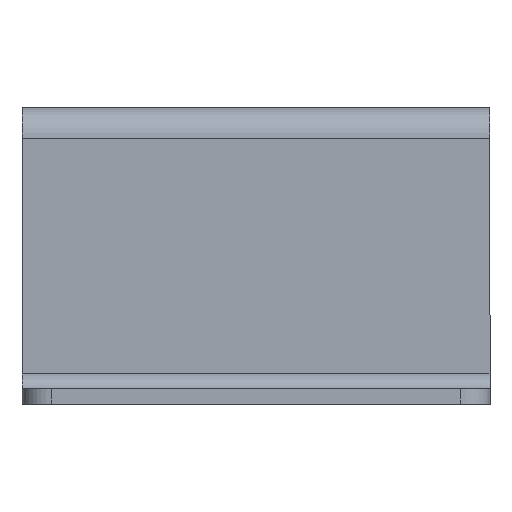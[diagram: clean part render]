
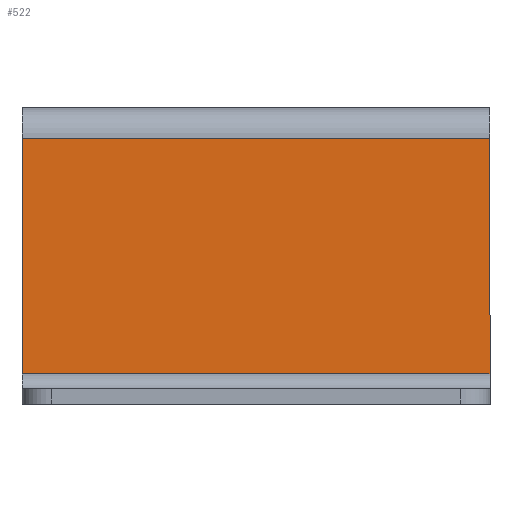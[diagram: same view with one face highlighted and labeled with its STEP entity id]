
A CAD part, left-side view. The second image highlights one B-rep face of the part: STEP entity #522.
In plain terms, the highlighted planar face has unit normal (-1, 0, 0).
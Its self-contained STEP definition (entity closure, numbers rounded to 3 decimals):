
#6 = VERTEX_POINT ( 'NONE', #337 ) ;
#80 = EDGE_CURVE ( 'NONE', #6, #560, #1069, .T. ) ;
#91 = PLANE ( 'NONE',  #600 ) ;
#230 = VECTOR ( 'NONE', #1982, 1000. ) ;
#253 = LINE ( 'NONE', #1944, #230 ) ;
#283 = EDGE_CURVE ( 'NONE', #1005, #560, #253, .T. ) ;
#337 = CARTESIAN_POINT ( 'NONE',  ( -53.68, 47.5, -53.98 ) ) ;
#383 = VECTOR ( 'NONE', #1695, 1000. ) ;
#386 = DIRECTION ( 'NONE',  ( 0., 1., 0. ) ) ;
#428 = EDGE_CURVE ( 'NONE', #2141, #6, #1440, .T. ) ;
#499 = CARTESIAN_POINT ( 'NONE',  ( -53.68, 47.5, -6.18 ) ) ;
#504 = EDGE_CURVE ( 'NONE', #1005, #2141, #2745, .T. ) ;
#522 = ADVANCED_FACE ( 'NONE', ( #728 ), #91, .T. ) ;
#560 = VERTEX_POINT ( 'NONE', #499 ) ;
#600 = AXIS2_PLACEMENT_3D ( 'NONE', #936, #1801, #1397 ) ;
#728 = FACE_OUTER_BOUND ( 'NONE', #1614, .T. ) ;
#888 = CARTESIAN_POINT ( 'NONE',  ( -53.68, -47.5, -53.98 ) ) ;
#936 = CARTESIAN_POINT ( 'NONE',  ( -53.68, 0., 0. ) ) ;
#1005 = VERTEX_POINT ( 'NONE', #1348 ) ;
#1069 = LINE ( 'NONE', #2288, #383 ) ;
#1184 = ORIENTED_EDGE ( 'NONE', *, *, #504, .F. ) ;
#1310 = ORIENTED_EDGE ( 'NONE', *, *, #428, .F. ) ;
#1320 = ORIENTED_EDGE ( 'NONE', *, *, #80, .F. ) ;
#1348 = CARTESIAN_POINT ( 'NONE',  ( -53.68, -47.5, -6.18 ) ) ;
#1397 = DIRECTION ( 'NONE',  ( 0., 0., 1. ) ) ;
#1440 = LINE ( 'NONE', #2282, #1551 ) ;
#1551 = VECTOR ( 'NONE', #386, 1000. ) ;
#1614 = EDGE_LOOP ( 'NONE', ( #1184, #2665, #1320, #1310 ) ) ;
#1695 = DIRECTION ( 'NONE',  ( 0., 0., 1. ) ) ;
#1704 = CARTESIAN_POINT ( 'NONE',  ( -53.68, -47.5, -53.98 ) ) ;
#1801 = DIRECTION ( 'NONE',  ( -1., 0., 0. ) ) ;
#1944 = CARTESIAN_POINT ( 'NONE',  ( -53.68, 0., -6.18 ) ) ;
#1982 = DIRECTION ( 'NONE',  ( 0., 1., 0. ) ) ;
#2102 = DIRECTION ( 'NONE',  ( 0., 0., -1. ) ) ;
#2141 = VERTEX_POINT ( 'NONE', #888 ) ;
#2236 = VECTOR ( 'NONE', #2102, 1000. ) ;
#2282 = CARTESIAN_POINT ( 'NONE',  ( -53.68, 47.5, -53.98 ) ) ;
#2288 = CARTESIAN_POINT ( 'NONE',  ( -53.68, 47.5, -3.18 ) ) ;
#2665 = ORIENTED_EDGE ( 'NONE', *, *, #283, .T. ) ;
#2745 = LINE ( 'NONE', #1704, #2236 ) ;
